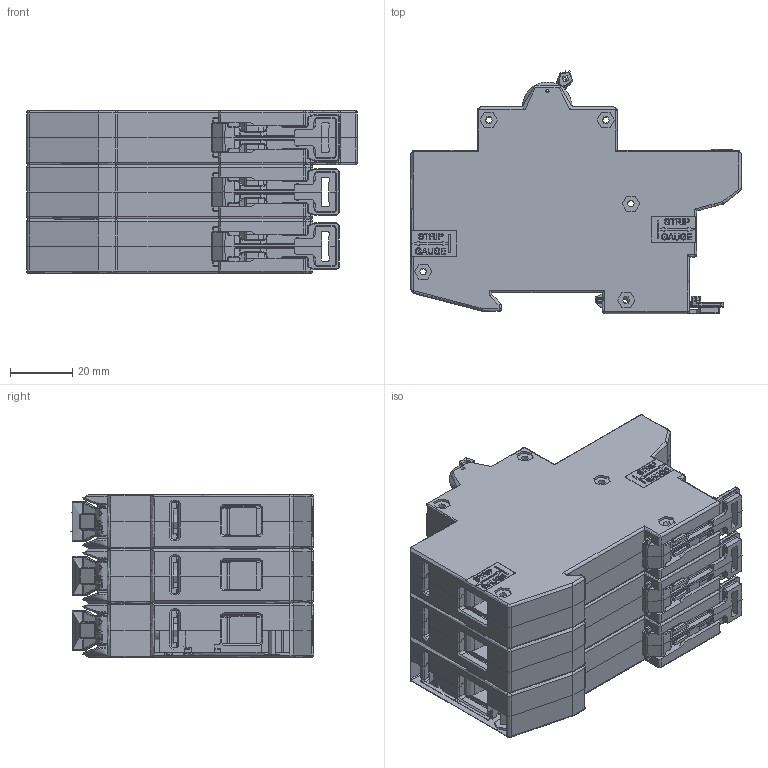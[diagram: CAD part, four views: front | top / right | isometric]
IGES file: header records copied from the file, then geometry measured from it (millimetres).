
Global section: file name: GR_3p_with_aux new; native system: Autodesk Inventor 2014; preprocessor: unknown; author: nbinnendijk; date: 20170404.114534; units: inch
Bounding box: 106.38 x 78.42 x 52.43 mm (x, y, z)
Topology: 3 solids, 3 shells, 5966 faces, 43049 edges, 42877 vertices
Faces by surface type: plane 3441, revolution 2048, bspline 343, cylinder 86, torus 42, sphere 6
Full cylindrical faces by diameter (mm): 1.118 x1, 1.676 x1, 2.235 x1, 2.362 x1
